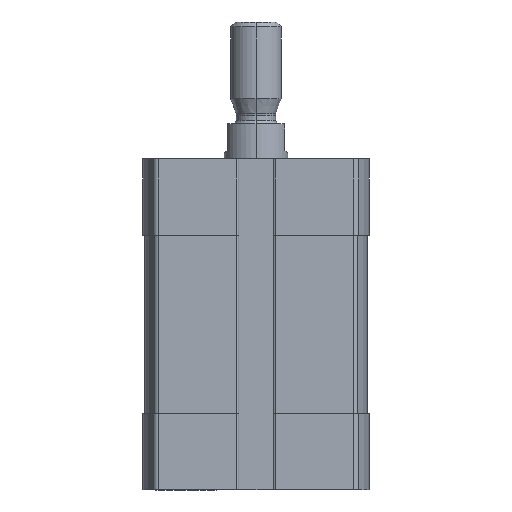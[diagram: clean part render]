
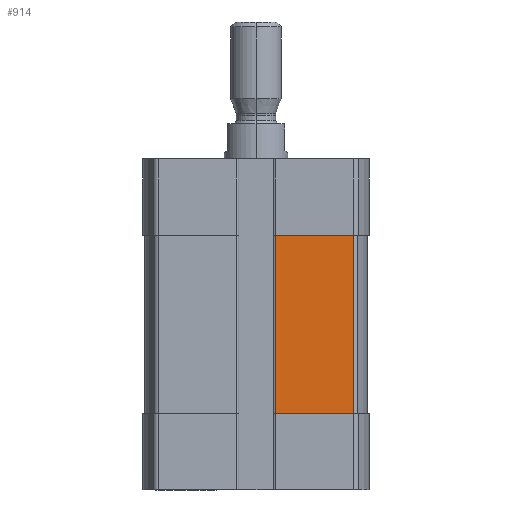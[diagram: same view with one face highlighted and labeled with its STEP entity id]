
A CAD part, left-side view. The second image highlights one B-rep face of the part: STEP entity #914.
In plain terms, the highlighted planar face has unit normal (-1, 0, 0).
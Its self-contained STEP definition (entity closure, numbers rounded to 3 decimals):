
#914 = ADVANCED_FACE ( 'NONE', ( #4533 ), #5009, .T. ) ;
#990 = VECTOR ( 'NONE', #1217, 1000. ) ;
#1119 = CARTESIAN_POINT ( 'NONE',  ( -17.5, -3.1, -40. ) ) ;
#1217 = DIRECTION ( 'NONE',  ( 0., 0., 1. ) ) ;
#1316 = LINE ( 'NONE', #11430, #990 ) ;
#1526 = CARTESIAN_POINT ( 'NONE',  ( -17.5, -15.253, -12. ) ) ;
#2107 = CARTESIAN_POINT ( 'NONE',  ( -17.5, -3.1, -40. ) ) ;
#2515 = VECTOR ( 'NONE', #12994, 1000. ) ;
#2648 = DIRECTION ( 'NONE',  ( 0., 1., 0. ) ) ;
#2754 = VECTOR ( 'NONE', #2648, 1000. ) ;
#2836 = LINE ( 'NONE', #6899, #2515 ) ;
#3252 = VERTEX_POINT ( 'NONE', #4385 ) ;
#4385 = CARTESIAN_POINT ( 'NONE',  ( -17.5, -15.253, -40. ) ) ;
#4533 = FACE_OUTER_BOUND ( 'NONE', #8485, .T. ) ;
#5009 = PLANE ( 'NONE',  #6933 ) ;
#5496 = DIRECTION ( 'NONE',  ( -1., 0., 0. ) ) ;
#6460 = ORIENTED_EDGE ( 'NONE', *, *, #9959, .T. ) ;
#6613 = ORIENTED_EDGE ( 'NONE', *, *, #9303, .T. ) ;
#6715 = CARTESIAN_POINT ( 'NONE',  ( -17.5, -3.1, -40. ) ) ;
#6899 = CARTESIAN_POINT ( 'NONE',  ( -17.5, -15.253, -40. ) ) ;
#6933 = AXIS2_PLACEMENT_3D ( 'NONE', #6715, #5496, #11817 ) ;
#7018 = CARTESIAN_POINT ( 'NONE',  ( -17.5, -3.1, -12. ) ) ;
#7086 = ORIENTED_EDGE ( 'NONE', *, *, #7329, .T. ) ;
#7329 = EDGE_CURVE ( 'NONE', #3252, #8492, #2836, .T. ) ;
#7442 = ORIENTED_EDGE ( 'NONE', *, *, #9863, .F. ) ;
#8166 = LINE ( 'NONE', #9800, #2754 ) ;
#8485 = EDGE_LOOP ( 'NONE', ( #6613, #7086, #6460, #7442 ) ) ;
#8492 = VERTEX_POINT ( 'NONE', #1526 ) ;
#8820 = LINE ( 'NONE', #1119, #11540 ) ;
#9279 = DIRECTION ( 'NONE',  ( 0., -1., 0. ) ) ;
#9303 = EDGE_CURVE ( 'NONE', #11816, #3252, #8820, .T. ) ;
#9800 = CARTESIAN_POINT ( 'NONE',  ( -17.5, 0., -12. ) ) ;
#9863 = EDGE_CURVE ( 'NONE', #11816, #12752, #1316, .T. ) ;
#9959 = EDGE_CURVE ( 'NONE', #8492, #12752, #8166, .T. ) ;
#11430 = CARTESIAN_POINT ( 'NONE',  ( -17.5, -3.1, -40. ) ) ;
#11540 = VECTOR ( 'NONE', #9279, 1000. ) ;
#11816 = VERTEX_POINT ( 'NONE', #2107 ) ;
#11817 = DIRECTION ( 'NONE',  ( 0., 0., 1. ) ) ;
#12752 = VERTEX_POINT ( 'NONE', #7018 ) ;
#12994 = DIRECTION ( 'NONE',  ( 0., 0., 1. ) ) ;
